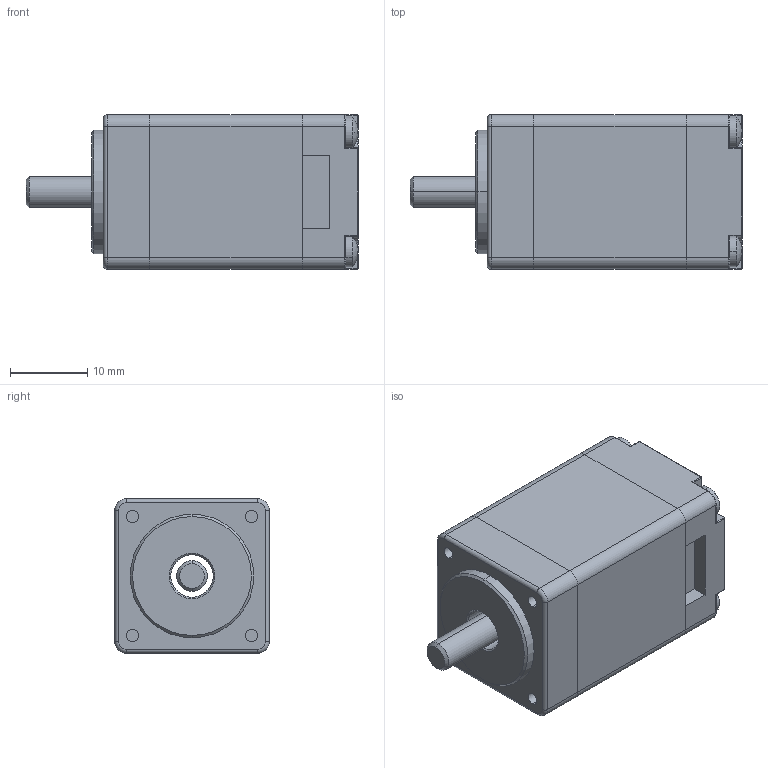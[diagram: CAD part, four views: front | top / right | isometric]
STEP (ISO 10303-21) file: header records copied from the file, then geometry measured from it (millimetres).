
FILE_DESCRIPTION (( 'STEP AP203' ), '1' );
FILE_NAME ('YK20HB33-01A.STEP', '2020-07-17T09:22:53', ( '' ), ( '' ), 'SwSTEP 2.0', 'SolidWorks 2016', '' );
FILE_SCHEMA (( 'CONFIG_CONTROL_DESIGN' ));
Length unit declared in the file: millimetre
Products named in the file (6): YK20HB33-01A; 蛌粣; 20綴裔; cross recessed pan head screws gb_GB_CROSS_SCREWS_TYPE1 M2X20-20  H type-N; 20ヶ裔; 20隅赽
Assembly tree (8 placements, depth 2):
  YK20HB33-01A
    20ヶ裔
    20隅赽
    20綴裔
    蛌粣
    cross recessed pan head screws gb_GB_CROSS_SCREWS_TYPE1 M2X20-20  H type-N  x4
Bounding box: 43 x 20 x 20 mm (x, y, z)
Volume: 9998.5 mm3; surface area: 8235.8 mm2
Topology: 8 solids, 8 shells, 281 faces, 696 edges, 432 vertices
Faces by surface type: cylinder 128, plane 109, torus 16, sphere 16, cone 12
Entity records: 6736 total; most frequent: DIRECTION 1118, CARTESIAN_POINT 1099, ORIENTED_EDGE 980, EDGE_CURVE 490, AXIS2_PLACEMENT_3D 439, VERTEX_POINT 300, EDGE_LOOP 242, LINE 240
